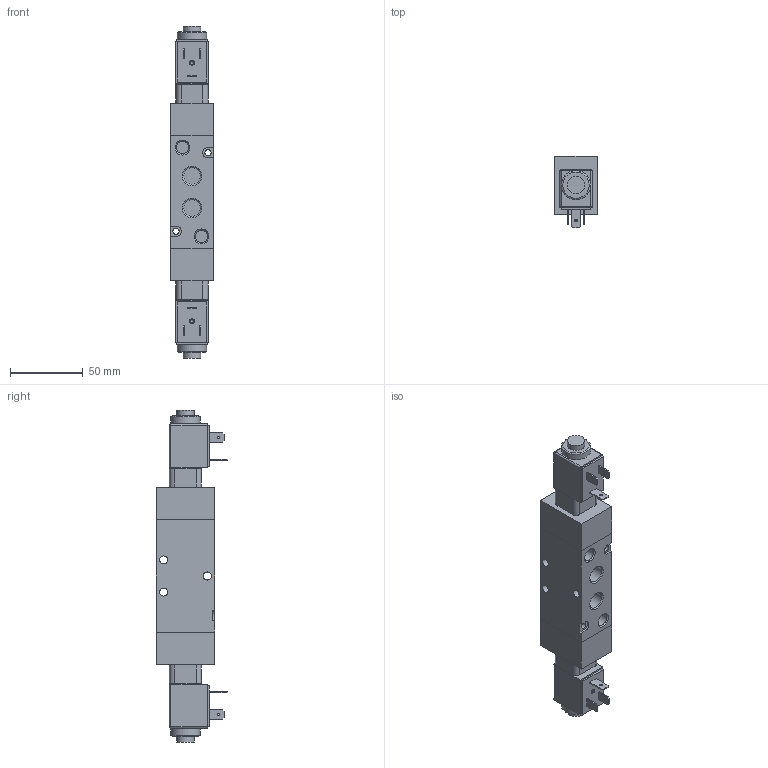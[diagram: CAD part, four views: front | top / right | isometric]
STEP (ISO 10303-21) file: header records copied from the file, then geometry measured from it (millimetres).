
FILE_DESCRIPTION(/* description */ (''),/* implementation_level */ '2;1');
FILE_NAME(/* name */ 'I:\Area Tecnica\Disegni\VARIE-3D\Componenti\T400\T424\T424_53_3#_0_0_E_B#.stp',/* time_stamp */ '2015-09-23T13:51:03+02:00',/* author */ ('maniean1'),/* organization */ ('Pneumax S.p.A.'),/* preprocessor_version */ 'ST-DEVELOPER v15.2',/* originating_system */ 'Autodesk Inventor 2014',/* authorisation */ '');
FILE_SCHEMA (('AUTOMOTIVE_DESIGN { 1 0 10303 214 3 1 1 }'));
Length unit declared in the file: millimetre
Products named in the file (3): T424_53_3#_0_0_E_M2; MB; T424_53_3#_0_0_E_B#
Bounding box: 29.5 x 49 x 228 mm (x, y, z)
Volume: 187312.9 mm3; surface area: 45923.4 mm2
Topology: 7 solids, 7 shells, 210 faces, 460 edges, 297 vertices
Faces by surface type: plane 129, cylinder 64, cone 13, sphere 4
Full cylindrical faces by diameter (mm): 1.5 x4, 1.6 x2, 2.156 x2, 4.25 x2, 5.5 x3, 7.4 x2, 8 x2, 8.2 x4, 8.566 x2, 9.8 x2, 10.1 x2, 10.2 x2, 11.445 x5, 12 x2, 13 x2, 13.5 x2, 16.2 x2, 20 x2
Entity records: 4251 total; most frequent: DIRECTION 731, CARTESIAN_POINT 667, ORIENTED_EDGE 570, EDGE_CURVE 285, AXIS2_PLACEMENT_3D 280, EDGE_LOOP 257, VERTEX_POINT 216, LINE 171
